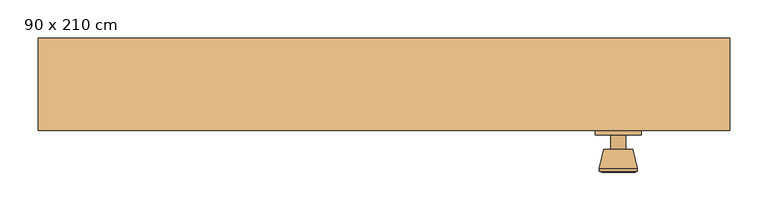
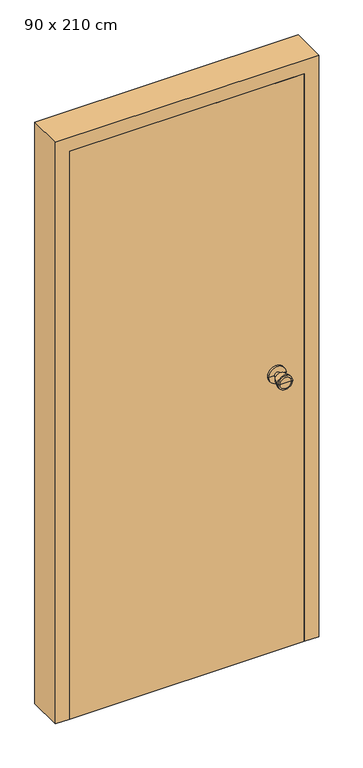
"""IFC4 building model written with IfcOpenShell, lengths in millimetres: door geometry, 單開-矩形- (1) : 90 x 210 cm."""

import ifcopenshell
import ifcopenshell.guid

model = None  # the IFC model being written
_history = None  # IfcOwnerHistory: only IFC2X3 demands one
_inside = {}  # id of a spatial element -> (the spatial element, [elements in it])
_under = {}  # id of a project, library or spatial element -> (it, [spatial elements below it])
_declared = {}  # id of a project -> (the project, [libraries it declares])
_typed = {}  # id of a type object -> (the type object, [elements of that type])
_made_of = {}  # id of a material, layer set ... -> (it, [elements and type objects made of it])


def new_model(schema):
    """Start an empty IFC model of exactly this schema.

    Asked for "IFC4X3", IfcOpenShell would pick the latest addendum, in which some entities
    have other attributes; the version numbers below select the first issue.
    IFC2X3 requires an IfcOwnerHistory on every rooted entity: one is made here for all.
    """
    global model, _history
    if schema == "IFC4X3":
        model = ifcopenshell.file(schema_version=(4, 3, 0, 0))
    else:
        model = ifcopenshell.file(schema=schema)
    _inside.clear()
    _under.clear()
    _declared.clear()
    _typed.clear()
    _made_of.clear()
    _history = None
    if model.schema == "IFC2X3":
        org = make("IfcOrganization", Name="unknown")
        user = make(
            "IfcPersonAndOrganization",
            ThePerson=make("IfcPerson", FamilyName="unknown"),
            TheOrganization=org,
        )
        app = make(
            "IfcApplication",
            ApplicationDeveloper=org,
            Version="unknown",
            ApplicationFullName="unknown",
            ApplicationIdentifier="unknown",
        )
        _history = make(
            "IfcOwnerHistory",
            OwningUser=user,
            OwningApplication=app,
            ChangeAction="ADDED",
            CreationDate=0,
        )
    return model


def make(cls, **values):
    """One entity of the class cls with the attributes given. An attribute that is None is left unset."""
    return model.create_entity(
        cls, **{name: value for name, value in values.items() if value is not None}
    )


def rooted(cls, **values):
    """An entity with a GlobalId (a new one), such as an element, a storey or a relation."""
    return make(cls, GlobalId=ifcopenshell.guid.new(), OwnerHistory=_history, **values)


def si_unit(unit_type, name, prefix=None):
    """IfcSIUnit, for example si_unit("LENGTHUNIT", "METRE", prefix="MILLI")."""
    return make("IfcSIUnit", UnitType=unit_type, Prefix=prefix, Name=name)


def assignment(units):
    """IfcUnitAssignment: the units of a project."""
    return None if units is None else make("IfcUnitAssignment", Units=units)


def point(xyz):
    """IfcCartesianPoint."""
    return None if xyz is None else make("IfcCartesianPoint", Coordinates=xyz)


def direction(xyz):
    """IfcDirection."""
    return None if xyz is None else make("IfcDirection", DirectionRatios=xyz)


def frame(location, z_axis=None, x_axis=None):
    """IfcAxis2Placement3D, a coordinate frame: its origin and axes. An axis left out is left unset."""
    return make(
        "IfcAxis2Placement3D",
        Location=point(location),
        Axis=direction(z_axis),
        RefDirection=direction(x_axis),
    )


def origin():
    """The frame at (0, 0, 0) with its axes left unset."""
    return frame((0.0, 0.0, 0.0))


def origin_with_axes():
    """The frame at (0, 0, 0) with the z axis (0, 0, 1) and the x axis (1, 0, 0) written out."""
    return frame((0.0, 0.0, 0.0), z_axis=(0.0, 0.0, 1.0), x_axis=(1.0, 0.0, 0.0))


def place(relative_to, where):
    """IfcLocalPlacement: puts the frame where relative to a parent placement (None: the world)."""
    return make(
        "IfcLocalPlacement", PlacementRelTo=relative_to, RelativePlacement=where
    )


def context(
    kind, dimensions, precision=None, world=None, true_north=None, identifier=None
):
    """IfcGeometricRepresentationContext, for example the 3D "Model" context."""
    return make(
        "IfcGeometricRepresentationContext",
        ContextIdentifier=identifier,
        ContextType=kind,
        CoordinateSpaceDimension=dimensions,
        Precision=precision,
        WorldCoordinateSystem=world,
        TrueNorth=true_north,
    )


def project(units=None, contexts=None):
    """IfcProject with its units and contexts."""
    return rooted(
        "IfcProject",
        Name="project",
        RepresentationContexts=contexts,
        UnitsInContext=assignment(units),
    )


def spatial(cls, under=None, at=None, **own):
    """A site, building, storey or space (cls), placed at a placement, below another one or the project."""
    s = rooted(cls, ObjectPlacement=at, **own)
    if under is not None:
        _under.setdefault(under.id(), (under, []))[1].append(s)
    return s


def polyline(points):
    """IfcPolyline through the points."""
    return make("IfcPolyline", Points=[point(p) for p in points])


def circle_curve(where, radius):
    """IfcCircle in the frame where."""
    return make("IfcCircle", Position=where, Radius=radius)


def outline(outer, holes=None, kind="AREA"):
    """IfcArbitraryClosedProfileDef: a profile drawn as a closed curve; with holes, ...WithVoids."""
    if holes is None:
        return make("IfcArbitraryClosedProfileDef", ProfileType=kind, OuterCurve=outer)
    return make(
        "IfcArbitraryProfileDefWithVoids",
        ProfileType=kind,
        OuterCurve=outer,
        InnerCurves=holes,
    )


def extrude(swept, where, along, depth):
    """IfcExtrudedAreaSolid: the profile swept, set in the frame where, extruded along a direction by depth."""
    return make(
        "IfcExtrudedAreaSolid",
        SweptArea=swept,
        Position=where,
        ExtrudedDirection=direction(along),
        Depth=depth,
    )


def faces_of(points, faces, orient=None, outer=None):
    """IfcFace entities. A face is a list of loops; a loop is a list of indices into points, from 0.

    orient and outer hold one flag for each loop. By default every Orientation is true, the
    first loop of a face is its IfcFaceOuterBound and the others are IfcFaceBound.
    """
    made = []
    for i, loops in enumerate(faces):
        bounds = []
        for j, loop in enumerate(loops):
            is_outer = j == 0 if outer is None else outer[i][j]
            bounds.append(
                make(
                    "IfcFaceOuterBound" if is_outer else "IfcFaceBound",
                    Bound=make("IfcPolyLoop", Polygon=[points[k] for k in loop]),
                    Orientation=True if orient is None else orient[i][j],
                )
            )
        made.append(make("IfcFace", Bounds=bounds))
    return made


def faceted_brep(points, faces, orient=None, outer=None, voids=None):
    """IfcFacetedBrep: a solid bounded by flat faces; with voids (closed shells), ...WithVoids."""
    shared = [point(p) for p in points]
    hull = make("IfcClosedShell", CfsFaces=faces_of(shared, faces, orient, outer))
    if voids is None:
        return make("IfcFacetedBrep", Outer=hull)
    return make(
        "IfcFacetedBrepWithVoids",
        Outer=hull,
        Voids=[
            make(cls, CfsFaces=faces_of(shared, fs, o, b)) for cls, fs, o, b in voids
        ],
    )


def shape(context_of_items, identifier, shape_type, items):
    """IfcShapeRepresentation: the items that make up one representation, for example the "Body"."""
    return make(
        "IfcShapeRepresentation",
        ContextOfItems=context_of_items,
        RepresentationIdentifier=identifier,
        RepresentationType=shape_type,
        Items=items,
    )


def source(mapping_origin, context_of_items, identifier, shape_type, items):
    """IfcRepresentationMap: a shape defined once, which mapped items show again and again."""
    return make(
        "IfcRepresentationMap",
        MappingOrigin=mapping_origin,
        MappedRepresentation=shape(context_of_items, identifier, shape_type, items),
    )


def transform(
    local_origin,
    x_axis=None,
    y_axis=None,
    z_axis=None,
    scale=None,
    scale2=None,
    scale3=None,
    uniform=True,
):
    """IfcCartesianTransformationOperator3D, or its non-uniform kind. x_axis, y_axis, z_axis: its Axis1, 2, 3."""
    if uniform:
        return make(
            "IfcCartesianTransformationOperator3D",
            Axis1=direction(x_axis),
            Axis2=direction(y_axis),
            LocalOrigin=point(local_origin),
            Scale=scale,
            Axis3=direction(z_axis),
        )
    return make(
        "IfcCartesianTransformationOperator3DnonUniform",
        Axis1=direction(x_axis),
        Axis2=direction(y_axis),
        LocalOrigin=point(local_origin),
        Scale=scale,
        Axis3=direction(z_axis),
        Scale2=scale2,
        Scale3=scale3,
    )


def mapped(mapping_source, mapping_target):
    """IfcMappedItem: shows the shape of a source again, moved by a transform."""
    return make(
        "IfcMappedItem", MappingSource=mapping_source, MappingTarget=mapping_target
    )


def made_of(thing, what):
    """Note that an element or type object is made of a material, layer set ...; save() writes the relation."""
    if what is not None:
        _made_of.setdefault(what.id(), (what, []))[1].append(thing)
    return thing


def element(
    cls,
    number,
    at=None,
    inside=None,
    cuts=None,
    type_object=None,
    material=None,
    context=None,
    identifier="Body",
    shape_type=None,
    held_by="IfcProductDefinitionShape",
    body=None,
    shapes=None,
    **own,
):
    """One element of the class cls, such as IfcWall. Its Tag is "e" and its number.

    at: its placement. inside: the storey or other place that contains it. cuts: it is an
    opening in that element (IfcRelVoidsElement). A single representation is given by context,
    identifier, shape_type and body (its items); several are given by shapes. held_by: the class
    of the entity that holds the representations. save() writes the other relations.
    """
    e = rooted(cls, Tag="e%d" % number, ObjectPlacement=at, **own)
    if body is not None:
        shapes = [shape(context, identifier, shape_type, body)]
    if shapes is not None:
        e.Representation = make(held_by, Representations=shapes)
    if inside is not None:
        _inside.setdefault(inside.id(), (inside, []))[1].append(e)
    if cuts is not None:
        rooted(
            "IfcRelVoidsElement", RelatingBuildingElement=cuts, RelatedOpeningElement=e
        )
    if type_object is not None:
        _typed.setdefault(type_object.id(), (type_object, []))[1].append(e)
    return made_of(e, material)


def aggregate(whole, parts):
    """IfcRelAggregates: a whole, such as a stair, and the parts it consists of."""
    return rooted("IfcRelAggregates", RelatingObject=whole, RelatedObjects=parts)


def save(model, path):
    """Write the relations noted so far, then the file.

    IfcRelAggregates (storeys below a building ...), IfcRelContainedInSpatialStructure (elements
    in a storey), IfcRelDefinesByType, IfcRelAssociatesMaterial and IfcRelDeclares: one each for
    every whole, place, type object, material and project.
    """
    for whole, parts in _under.values():
        aggregate(whole, parts)
    for where, things in _inside.values():
        rooted(
            "IfcRelContainedInSpatialStructure",
            RelatedElements=things,
            RelatingStructure=where,
        )
    for kind, things in _typed.values():
        rooted("IfcRelDefinesByType", RelatedObjects=things, RelatingType=kind)
    for what, things in _made_of.values():
        rooted("IfcRelAssociatesMaterial", RelatedObjects=things, RelatingMaterial=what)
    for by, libraries in _declared.values():
        rooted("IfcRelDeclares", RelatingContext=by, RelatedDefinitions=libraries)
    model.write(path)


def plane_surface(at):
    """IfcPlane: the flat surface through the origin of the frame at, square to its z axis."""
    return make("IfcPlane", Position=at)


def cylinder_surface(at, radius):
    """IfcCylindricalSurface: all points at the distance radius from the z axis of the frame at."""
    return make("IfcCylindricalSurface", Position=at, Radius=radius)


def revolved_surface(curve, axis_point, axis_direction):
    """IfcSurfaceOfRevolution: the curve turned about the line through axis_point along axis_direction."""
    return make(
        "IfcSurfaceOfRevolution",
        SweptCurve=make("IfcArbitraryOpenProfileDef", ProfileType="CURVE", Curve=curve),
        AxisPosition=make("IfcAxis1Placement", Location=point(axis_point), Axis=direction(axis_direction)),
    )


def advanced_brep(points, edges, surfaces, faces):
    """IfcAdvancedBrep: a solid bounded by faces that lie on surfaces and meet in shared edges.

    An edge is (start, end): straight between two places in points (the first is 0);
    or (start, end, curve); or (start, end, curve, False) where it runs against its curve.
    A face is (place in surfaces, loops), or (place, loops, False) where it looks against
    its surface's normal. A loop lists edges by number (the first is 1), with a minus sign
    where the edge is run from its end to its start. The first loop is the outer one.
    """
    corners = [point(p) for p in points]
    vertices = [make("IfcVertexPoint", VertexGeometry=c) for c in corners]
    made = []
    for start, end, *more in edges:
        made.append(
            make(
                "IfcEdgeCurve",
                EdgeStart=vertices[start],
                EdgeEnd=vertices[end],
                EdgeGeometry=more[0] if more else make("IfcPolyline", Points=[corners[start], corners[end]]),
                SameSense=more[1] if len(more) > 1 else True,
            )
        )
    hull = []
    for where, loops, *sense in faces:
        bounds = []
        for j, loop in enumerate(loops):
            ring = [make("IfcOrientedEdge", EdgeElement=made[abs(k) - 1], Orientation=k > 0) for k in loop]
            bounds.append(
                make(
                    "IfcFaceOuterBound" if j == 0 else "IfcFaceBound",
                    Bound=make("IfcEdgeLoop", EdgeList=ring),
                    Orientation=True,
                )
            )
        hull.append(make("IfcAdvancedFace", Bounds=bounds, FaceSurface=surfaces[where], SameSense=sense[0] if sense else True))
    return make("IfcAdvancedBrep", Outer=make("IfcClosedShell", CfsFaces=hull))


def door_90_x_210_cm_a8ea8b61(model_context):
    return source(origin(), model_context, "Body", "SolidModel", [
        advanced_brep(
        [(335.0, 144.0, 1000.0), (275.0, 144.0, 1000.0), (275.0, 150.0, 1000.0), (335.0, 150.0, 1000.0), (315.0, 144.0, 1000.0), (295.0, 144.0, 1000.0), (315.0, 125.0, 1000.0), (295.0, 125.0, 1000.0), (323.6, 125.0, 1000.0), (286.4, 125.0, 1000.0), (330.0, 100.3, 1000.0), (280.0, 100.3, 1000.0), (330.0, 96.8, 1000.0), (280.0, 96.8, 1000.0), (325.5, 95.0, 1000.0), (284.5, 95.0, 1000.0), (305.0, 95.0, 1000.0), (305.0, 150.0, 1000.0)],
        [
            (0, 1, circle_curve(frame((305.0, 144.0, 1000.0), z_axis=(0.0, 1.0, 0.0), x_axis=(-1.0, 0.0, 0.0)), 30.0)),
            (1, 2),
            (2, 3, circle_curve(frame((305.0, 150.0, 1000.0), z_axis=(0.0, -1.0, 0.0), x_axis=(-1.0, 0.0, 0.0)), 30.0)),
            (3, 0),
            (1, 0, circle_curve(frame((305.0, 144.0, 1000.0), z_axis=(0.0, 1.0, 0.0), x_axis=(-1.0, 0.0, 0.0)), 30.0)),
            (3, 2, circle_curve(frame((305.0, 150.0, 1000.0), z_axis=(0.0, -1.0, 0.0), x_axis=(-1.0, 0.0, 0.0)), 30.0)),
            (4, 5, circle_curve(frame((305.0, 144.0, 1000.0), z_axis=(0.0, 1.0, 0.0), x_axis=(-1.0, 0.0, 0.0)), 10.0)),
            (5, 1),
            (0, 4),
            (5, 4, circle_curve(frame((305.0, 144.0, 1000.0), z_axis=(0.0, 1.0, 0.0), x_axis=(-1.0, 0.0, 0.0)), 10.0)),
            (6, 7, circle_curve(frame((305.0, 125.0, 1000.0), z_axis=(0.0, 1.0, 0.0), x_axis=(-1.0, 0.0, 0.0)), 10.0)),
            (7, 5),
            (4, 6),
            (7, 6, circle_curve(frame((305.0, 125.0, 1000.0), z_axis=(0.0, 1.0, 0.0), x_axis=(-1.0, 0.0, 0.0)), 10.0)),
            (8, 9, circle_curve(frame((305.0, 125.0, 1000.0), z_axis=(0.0, 1.0, 0.0), x_axis=(-1.0, 0.0, 0.0)), 18.6)),
            (9, 7),
            (6, 8),
            (9, 8, circle_curve(frame((305.0, 125.0, 1000.0), z_axis=(0.0, 1.0, 0.0), x_axis=(-1.0, 0.0, 0.0)), 18.6)),
            (10, 11, circle_curve(frame((305.0, 100.3, 1000.0), z_axis=(0.0, 1.0, 0.0), x_axis=(-1.0, 0.0, 0.0)), 25.0)),
            (11, 9),
            (8, 10),
            (11, 10, circle_curve(frame((305.0, 100.3, 1000.0), z_axis=(0.0, 1.0, 0.0), x_axis=(-1.0, 0.0, 0.0)), 25.0)),
            (12, 13, circle_curve(frame((305.0, 96.8, 1000.0), z_axis=(0.0, 1.0, 0.0), x_axis=(-1.0, 0.0, 0.0)), 25.0)),
            (13, 11),
            (10, 12),
            (13, 12, circle_curve(frame((305.0, 96.8, 1000.0), z_axis=(0.0, 1.0, 0.0), x_axis=(-1.0, 0.0, 0.0)), 25.0)),
            (14, 15, circle_curve(frame((305.0, 95.0, 1000.0), z_axis=(0.0, 1.0, 0.0), x_axis=(-1.0, 0.0, 0.0)), 20.5)),
            (15, 13),
            (12, 14),
            (15, 14, circle_curve(frame((305.0, 95.0, 1000.0), z_axis=(0.0, 1.0, 0.0), x_axis=(-1.0, 0.0, 0.0)), 20.5)),
            (16, 15),
            (14, 16),
            (2, 17),
            (17, 3),
        ],
        [
            cylinder_surface(frame((305.0, 210.0, 1000.0), z_axis=(0.0, -1.0, 0.0), x_axis=(-1.0, 0.0, 0.0)), 30.0),
            plane_surface(frame((305.0, 144.0, 1000.0), z_axis=(0.0, -1.0, 0.0), x_axis=(-1.0, 0.0, 0.0))),
            cylinder_surface(frame((305.0, 210.0, 1000.0), z_axis=(0.0, -1.0, 0.0), x_axis=(-1.0, 0.0, 0.0)), 10.0),
            plane_surface(frame((305.0, 125.0, 1000.0), z_axis=(0.0, 1.0, 0.0), x_axis=(-1.0, 0.0, 0.0))),
            revolved_surface(polyline([(286.4, 125.0, 1000.0), (280.0, 100.3, 1000.0)]), (305.0, 210.0, 1000.0), (0.0, -1.0, 0.0)),
            cylinder_surface(frame((305.0, 210.0, 1000.0), z_axis=(0.0, -1.0, 0.0), x_axis=(-1.0, 0.0, 0.0)), 25.0),
            revolved_surface(polyline([(280.0, 96.8, 1000.0), (284.5, 95.0, 1000.0)]), (305.0, 210.0, 1000.0), (0.0, -1.0, 0.0)),
            plane_surface(frame((305.0, 95.0, 1000.0), z_axis=(0.0, -1.0, 0.0), x_axis=(-1.0, 0.0, 0.0))),
            plane_surface(frame((305.0, 150.0, 1000.0), z_axis=(0.0, 1.0, 0.0), x_axis=(-1.0, 0.0, 0.0))),
        ],
        [
            (0, [[1, 2, 3, 4]]),
            (0, [[5, -4, 6, -2]]),
            (1, [[7, 8, -1, 9]]),
            (1, [[10, -9, -5, -8]]),
            (2, [[11, 12, -7, 13]]),
            (2, [[14, -13, -10, -12]]),
            (3, [[15, 16, -11, 17]]),
            (3, [[18, -17, -14, -16]]),
            (4, [[19, 20, -15, 21]]),
            (4, [[22, -21, -18, -20]]),
            (5, [[23, 24, -19, 25]]),
            (5, [[26, -25, -22, -24]]),
            (6, [[27, 28, -23, 29]]),
            (6, [[30, -29, -26, -28]]),
            (7, [[31, -27, 32]]),
            (7, [[-32, -30, -31]]),
            (8, [[-3, 33, 34]]),
            (8, [[-6, -34, -33]]),
        ],
    ),
        advanced_brep(
        [(335.0, 196.0, 1000.0), (335.0, 190.0, 1000.0), (275.0, 190.0, 1000.0), (275.0, 196.0, 1000.0), (315.0, 196.0, 1000.0), (295.0, 196.0, 1000.0), (315.0, 215.0, 1000.0), (295.0, 215.0, 1000.0), (323.6, 215.0, 1000.0), (286.4, 215.0, 1000.0), (330.0, 239.7, 1000.0), (280.0, 239.7, 1000.0), (330.0, 243.2, 1000.0), (280.0, 243.2, 1000.0), (325.5, 245.0, 1000.0), (284.5, 245.0, 1000.0), (305.0, 245.0, 1000.0), (305.0, 190.0, 1000.0)],
        [
            (0, 1),
            (1, 2, circle_curve(frame((305.0, 190.0, 1000.0), z_axis=(0.0, 1.0, 0.0), x_axis=(-1.0, 0.0, 0.0)), 30.0)),
            (2, 3),
            (3, 0, circle_curve(frame((305.0, 196.0, 1000.0), z_axis=(0.0, -1.0, 0.0), x_axis=(-1.0, 0.0, 0.0)), 30.0)),
            (2, 1, circle_curve(frame((305.0, 190.0, 1000.0), z_axis=(0.0, 1.0, 0.0), x_axis=(-1.0, 0.0, 0.0)), 30.0)),
            (0, 3, circle_curve(frame((305.0, 196.0, 1000.0), z_axis=(0.0, -1.0, 0.0), x_axis=(-1.0, 0.0, 0.0)), 30.0)),
            (4, 0),
            (3, 5),
            (5, 4, circle_curve(frame((305.0, 196.0, 1000.0), z_axis=(0.0, -1.0, 0.0), x_axis=(-1.0, 0.0, 0.0)), 10.0)),
            (4, 5, circle_curve(frame((305.0, 196.0, 1000.0), z_axis=(0.0, -1.0, 0.0), x_axis=(-1.0, 0.0, 0.0)), 10.0)),
            (6, 4),
            (5, 7),
            (7, 6, circle_curve(frame((305.0, 215.0, 1000.0), z_axis=(0.0, -1.0, 0.0), x_axis=(-1.0, 0.0, 0.0)), 10.0)),
            (6, 7, circle_curve(frame((305.0, 215.0, 1000.0), z_axis=(0.0, -1.0, 0.0), x_axis=(-1.0, 0.0, 0.0)), 10.0)),
            (8, 6),
            (7, 9),
            (9, 8, circle_curve(frame((305.0, 215.0, 1000.0), z_axis=(0.0, -1.0, 0.0), x_axis=(-1.0, 0.0, 0.0)), 18.6)),
            (8, 9, circle_curve(frame((305.0, 215.0, 1000.0), z_axis=(0.0, -1.0, 0.0), x_axis=(-1.0, 0.0, 0.0)), 18.6)),
            (10, 8),
            (9, 11),
            (11, 10, circle_curve(frame((305.0, 239.7, 1000.0), z_axis=(0.0, -1.0, 0.0), x_axis=(-1.0, 0.0, 0.0)), 25.0)),
            (10, 11, circle_curve(frame((305.0, 239.7, 1000.0), z_axis=(0.0, -1.0, 0.0), x_axis=(-1.0, 0.0, 0.0)), 25.0)),
            (12, 10),
            (11, 13),
            (13, 12, circle_curve(frame((305.0, 243.2, 1000.0), z_axis=(0.0, -1.0, 0.0), x_axis=(-1.0, 0.0, 0.0)), 25.0)),
            (12, 13, circle_curve(frame((305.0, 243.2, 1000.0), z_axis=(0.0, -1.0, 0.0), x_axis=(-1.0, 0.0, 0.0)), 25.0)),
            (14, 12),
            (13, 15),
            (15, 14, circle_curve(frame((305.0, 245.0, 1000.0), z_axis=(0.0, -1.0, 0.0), x_axis=(-1.0, 0.0, 0.0)), 20.5)),
            (14, 15, circle_curve(frame((305.0, 245.0, 1000.0), z_axis=(0.0, -1.0, 0.0), x_axis=(-1.0, 0.0, 0.0)), 20.5)),
            (16, 14),
            (15, 16),
            (1, 17),
            (17, 2),
        ],
        [
            cylinder_surface(frame((305.0, 130.0, 1000.0), z_axis=(0.0, 1.0, 0.0), x_axis=(-1.0, 0.0, 0.0)), 30.0),
            plane_surface(frame((305.0, 196.0, 1000.0), z_axis=(0.0, 1.0, 0.0), x_axis=(-1.0, 0.0, 0.0))),
            cylinder_surface(frame((305.0, 130.0, 1000.0), z_axis=(0.0, 1.0, 0.0), x_axis=(-1.0, 0.0, 0.0)), 10.0),
            plane_surface(frame((305.0, 215.0, 1000.0), z_axis=(0.0, -1.0, 0.0), x_axis=(-1.0, 0.0, 0.0))),
            revolved_surface(polyline([(286.4, 215.0, 1000.0), (280.0, 239.7, 1000.0)]), (305.0, 130.0, 1000.0), (0.0, 1.0, 0.0)),
            cylinder_surface(frame((305.0, 130.0, 1000.0), z_axis=(0.0, 1.0, 0.0), x_axis=(-1.0, 0.0, 0.0)), 25.0),
            revolved_surface(polyline([(280.0, 243.2, 1000.0), (284.5, 245.0, 1000.0)]), (305.0, 130.0, 1000.0), (0.0, 1.0, 0.0)),
            plane_surface(frame((305.0, 245.0, 1000.0), z_axis=(0.0, 1.0, 0.0), x_axis=(-1.0, 0.0, 0.0))),
            plane_surface(frame((305.0, 190.0, 1000.0), z_axis=(0.0, -1.0, 0.0), x_axis=(-1.0, 0.0, 0.0))),
        ],
        [
            (0, [[1, 2, 3, 4]]),
            (0, [[-3, 5, -1, 6]]),
            (1, [[7, -4, 8, 9]]),
            (1, [[-8, -6, -7, 10]]),
            (2, [[11, -9, 12, 13]]),
            (2, [[-12, -10, -11, 14]]),
            (3, [[15, -13, 16, 17]]),
            (3, [[-16, -14, -15, 18]]),
            (4, [[19, -17, 20, 21]]),
            (4, [[-20, -18, -19, 22]]),
            (5, [[23, -21, 24, 25]]),
            (5, [[-24, -22, -23, 26]]),
            (6, [[27, -25, 28, 29]]),
            (6, [[-28, -26, -27, 30]]),
            (7, [[31, -29, 32]]),
            (7, [[-32, -30, -31]]),
            (8, [[33, 34, -2]]),
            (8, [[-34, -33, -5]]),
        ],
    ),
        extrude(outline(polyline([(400.0, 190.0), (400.0, 150.0), (-400.0, 150.0), (-400.0, 190.0), (400.0, 190.0)])), origin_with_axes(), (0.0, 0.0, 1.0), 2050.0),
        faceted_brep([(400.0, 150.0, 0.0), (400.0, 190.0, 0.0), (380.0, 190.0, 0.0), (380.0, 270.0, 0.0), (450.0, 270.0, 0.0), (450.0, 150.0, 0.0), (450.0, 150.0, 2100.0), (-450.0, 150.0, 2100.0), (-450.0, 150.0, 0.0), (-400.0, 150.0, 0.0), (-400.0, 150.0, 2050.0), (400.0, 150.0, 2050.0), (450.0, 270.0, 2100.0), (380.0, 270.0, 2030.0), (-380.0, 270.0, 2030.0), (-380.0, 270.0, 0.0), (-450.0, 270.0, 0.0), (-450.0, 270.0, 2100.0), (380.0, 190.0, 2030.0), (400.0, 190.0, 2050.0), (-400.0, 190.0, 2050.0), (-400.0, 190.0, 0.0), (-380.0, 190.0, 0.0), (-380.0, 190.0, 2030.0)], [[[0, 1, 2, 3, 4, 5]], [[5, 6, 7, 8, 9, 10, 11, 0]], [[4, 12, 6, 5]], [[3, 13, 14, 15, 16, 17, 12, 4]], [[2, 18, 13, 3]], [[1, 19, 20, 21, 22, 23, 18, 2]], [[0, 11, 19, 1]], [[12, 17, 7, 6]], [[18, 23, 14, 13]], [[11, 10, 20, 19]], [[9, 8, 16, 15, 22, 21]], [[17, 16, 8, 7]], [[23, 22, 15, 14]], [[10, 9, 21, 20]]]),
    ])


if __name__ == "__main__":
    model = new_model("IFC4")
    model_context = context("Model", 3, world=origin())
    ifc_project = project(units=[si_unit("LENGTHUNIT", "METRE", prefix="MILLI")], contexts=[model_context])
    site = spatial("IfcSite", under=ifc_project)
    building = spatial("IfcBuilding", under=site)
    placement = place(None, origin())
    door_90_x_210_cm_shape = door_90_x_210_cm_a8ea8b61(model_context)
    element("IfcDoor", 1, ObjectType="單開-矩形- (1) : 90 x 210 cm", at=placement, inside=building, context=model_context, shape_type="MappedRepresentation", body=[
        mapped(door_90_x_210_cm_shape, transform((0.0, 0.0, 0.0), x_axis=(1.0, 0.0, 0.0), y_axis=(0.0, 1.0, 0.0), z_axis=(0.0, 0.0, 1.0))),
    ])
    save(model, "model.ifc")
